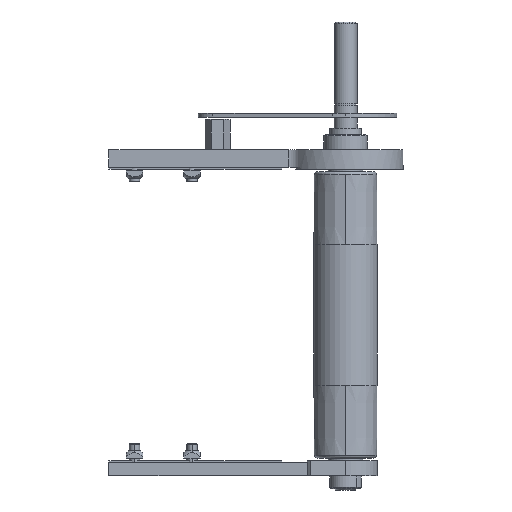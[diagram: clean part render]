
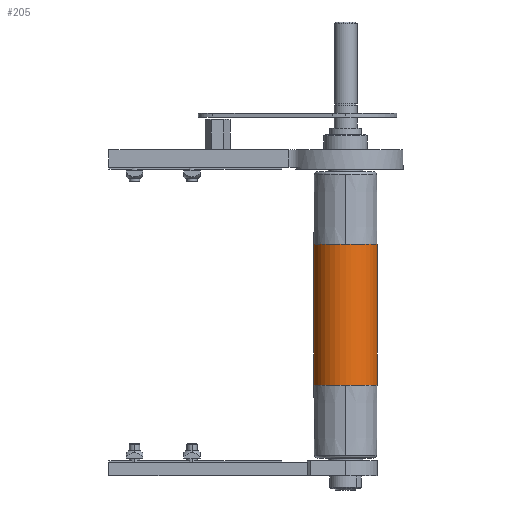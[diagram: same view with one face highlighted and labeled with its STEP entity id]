
A CAD part, front view. The second image highlights one B-rep face of the part: STEP entity #205.
In plain terms, the highlighted cylindrical face has radius 25 mm (diameter 50 mm), a partial arc.
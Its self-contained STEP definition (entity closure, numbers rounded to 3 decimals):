
#205 = ADVANCED_FACE ( 'NONE', ( #13931 ), #13940, .T. ) ;
#689 = EDGE_CURVE ( 'NONE', #3091, #3090, #14705, .T. ) ;
#695 = EDGE_CURVE ( 'NONE', #3092, #3116, #14713, .T. ) ;
#721 = EDGE_CURVE ( 'NONE', #3090, #3037, #14750, .T. ) ;
#722 = EDGE_CURVE ( 'NONE', #3037, #3035, #14753, .T. ) ;
#723 = EDGE_CURVE ( 'NONE', #3116, #3035, #14754, .T. ) ;
#724 = EDGE_CURVE ( 'NONE', #3091, #3092, #14756, .T. ) ;
#1529 = ORIENTED_EDGE ( 'NONE', *, *, #689, .T. ) ;
#1530 = ORIENTED_EDGE ( 'NONE', *, *, #721, .T. ) ;
#1531 = ORIENTED_EDGE ( 'NONE', *, *, #722, .T. ) ;
#1532 = ORIENTED_EDGE ( 'NONE', *, *, #723, .F. ) ;
#1533 = ORIENTED_EDGE ( 'NONE', *, *, #695, .F. ) ;
#1535 = ORIENTED_EDGE ( 'NONE', *, *, #724, .F. ) ;
#3035 = VERTEX_POINT ( 'NONE', #8820 ) ;
#3037 = VERTEX_POINT ( 'NONE', #8822 ) ;
#3090 = VERTEX_POINT ( 'NONE', #8875 ) ;
#3091 = VERTEX_POINT ( 'NONE', #8876 ) ;
#3092 = VERTEX_POINT ( 'NONE', #8877 ) ;
#3116 = VERTEX_POINT ( 'NONE', #8901 ) ;
#3585 = EDGE_LOOP ( 'NONE', ( #1529, #1530, #1531, #1532, #1533, #1535 ) ) ;
#5200 = AXIS2_PLACEMENT_3D ( 'NONE', #5687, #5688, #5689 ) ;
#5204 = AXIS2_PLACEMENT_3D ( 'NONE', #5705, #5706, #5707 ) ;
#5217 = AXIS2_PLACEMENT_3D ( 'NONE', #5772, #5773, #5774 ) ;
#5218 = AXIS2_PLACEMENT_3D ( 'NONE', #5775, #5776, #5777 ) ;
#5687 = CARTESIAN_POINT ( 'NONE',  ( 55., 0., 0. ) ) ;
#5688 = DIRECTION ( 'NONE',  ( -1., 0., 0. ) ) ;
#5689 = DIRECTION ( 'NONE',  ( 0., -1., 0. ) ) ;
#5705 = CARTESIAN_POINT ( 'NONE',  ( -55., 0., 0. ) ) ;
#5706 = DIRECTION ( 'NONE',  ( -1., 0., 0. ) ) ;
#5707 = DIRECTION ( 'NONE',  ( 0., -1., 0. ) ) ;
#5764 = DIRECTION ( 'NONE',  ( -1., 0., 0. ) ) ;
#5769 = CARTESIAN_POINT ( 'NONE',  ( 110., 0., -25. ) ) ;
#5770 = CARTESIAN_POINT ( 'NONE',  ( 110., 0., 25. ) ) ;
#5771 = DIRECTION ( 'NONE',  ( -1., 0., 0. ) ) ;
#5772 = CARTESIAN_POINT ( 'NONE',  ( 55., 0., 0. ) ) ;
#5773 = DIRECTION ( 'NONE',  ( -1., 0., 0. ) ) ;
#5774 = DIRECTION ( 'NONE',  ( 0., -1., 0. ) ) ;
#5775 = CARTESIAN_POINT ( 'NONE',  ( -55., 0., 0. ) ) ;
#5776 = DIRECTION ( 'NONE',  ( -1., 0., 0. ) ) ;
#5777 = DIRECTION ( 'NONE',  ( 0., -1., 0. ) ) ;
#8820 = CARTESIAN_POINT ( 'NONE',  ( -55., 0., -25. ) ) ;
#8822 = CARTESIAN_POINT ( 'NONE',  ( 55., 0., -25. ) ) ;
#8875 = CARTESIAN_POINT ( 'NONE',  ( 55., 25., 0. ) ) ;
#8876 = CARTESIAN_POINT ( 'NONE',  ( 55., 0., 25. ) ) ;
#8877 = CARTESIAN_POINT ( 'NONE',  ( -55., 0., 25. ) ) ;
#8901 = CARTESIAN_POINT ( 'NONE',  ( -55., 25., 0. ) ) ;
#13931 = FACE_OUTER_BOUND ( 'NONE', #3585, .T. ) ;
#13940 = CYLINDRICAL_SURFACE ( 'NONE', #15388, 25. ) ;
#14705 = CIRCLE ( 'NONE', #5200, 25. ) ;
#14713 = CIRCLE ( 'NONE', #5204, 25. ) ;
#14750 = CIRCLE ( 'NONE', #5217, 25. ) ;
#14753 = LINE ( 'NONE', #5769, #14755 ) ;
#14754 = CIRCLE ( 'NONE', #5218, 25. ) ;
#14755 = VECTOR ( 'NONE', #5764, 1000. ) ;
#14756 = LINE ( 'NONE', #5770, #14758 ) ;
#14758 = VECTOR ( 'NONE', #5771, 1000. ) ;
#15189 = DIRECTION ( 'NONE',  ( 0., 0., 1. ) ) ;
#15191 = DIRECTION ( 'NONE',  ( -1., 0., 0. ) ) ;
#15193 = CARTESIAN_POINT ( 'NONE',  ( 110., 0., 0. ) ) ;
#15388 = AXIS2_PLACEMENT_3D ( 'NONE', #15193, #15191, #15189 ) ;
